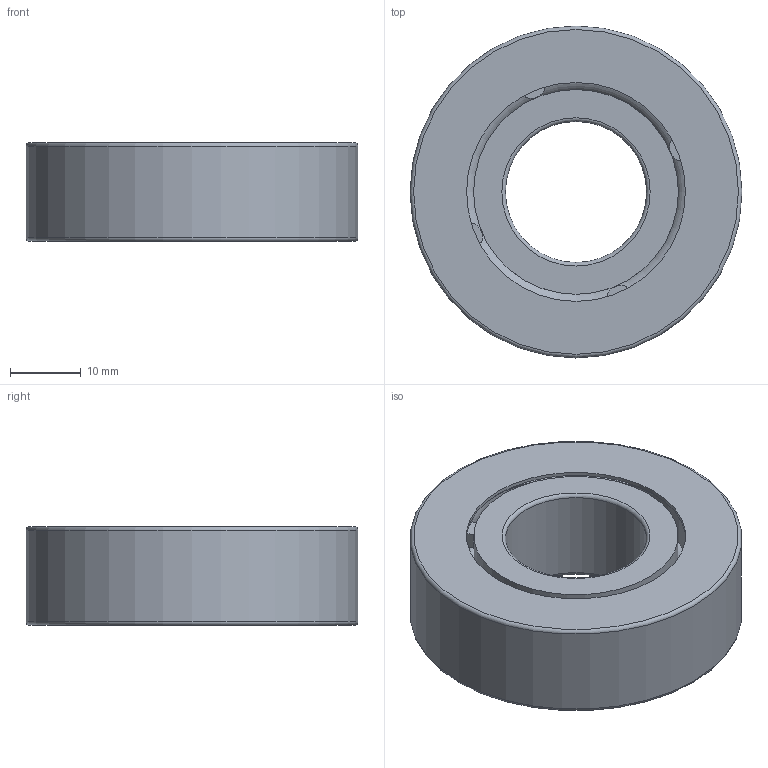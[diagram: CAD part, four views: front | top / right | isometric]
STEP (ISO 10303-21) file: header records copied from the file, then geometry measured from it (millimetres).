
FILE_DESCRIPTION(/* description */ (''),/* implementation_level */ '2;1');
FILE_NAME(/* name */ '301068 FK 6204.stp',/* time_stamp */ '2016-11-18T11:27:58+01:00',/* author */ (''),/* organization */ (''),/* preprocessor_version */ 'ST-DEVELOPER v15',/* originating_system */ 'SIEMENS PLM Software NX 8.5',/* authorisation */ '');
FILE_SCHEMA (('CONFIG_CONTROL_DESIGN'));
Length unit declared in the file: millimetre
Products named in the file (3): ATE0000079_01; ATE0000108_01; ATE0000109_01
Assembly tree (2 placements, depth 2):
  ATE0000109_01
    ATE0000108_01
    ATE0000079_01
Bounding box: 47 x 47 x 14 mm (x, y, z)
Volume: 16794.7 mm3; surface area: 10416.7 mm2
Topology: 2 solids, 2 shells, 66 faces, 147 edges, 96 vertices
Faces by surface type: plane 41, cylinder 19, torus 6
Full cylindrical faces by diameter (mm): 20 x1, 29 x2, 31 x1, 33 x1, 35 x1, 36 x2, 37 x2, 47 x1
Entity records: 2006 total; most frequent: DIRECTION 318, CARTESIAN_POINT 281, ORIENTED_EDGE 244, AXIS2_PLACEMENT_3D 127, EDGE_CURVE 122, EDGE_LOOP 100, VERTEX_POINT 90, ADVANCED_FACE 66
